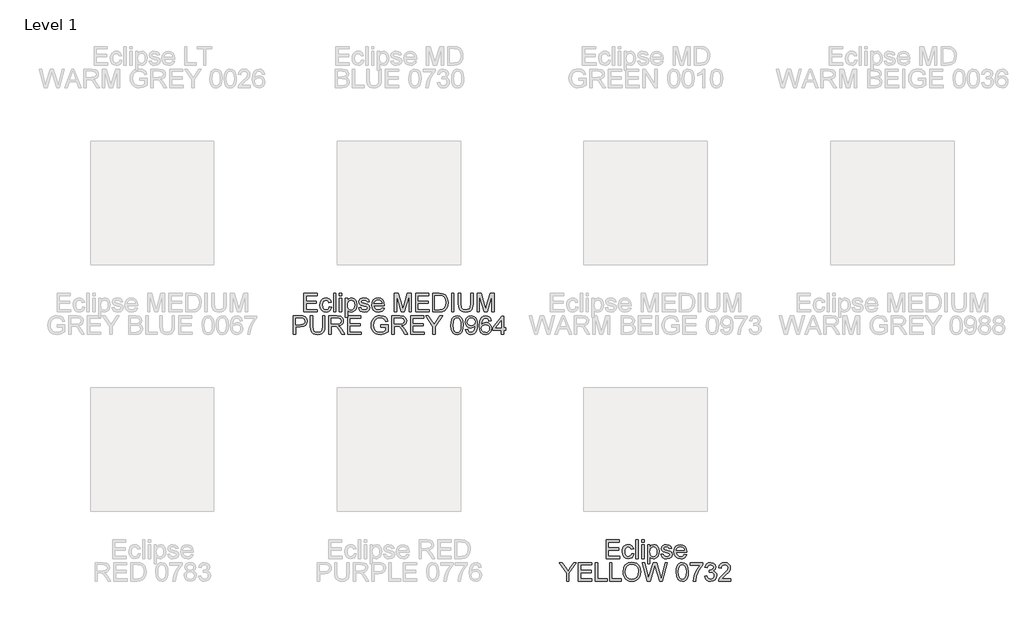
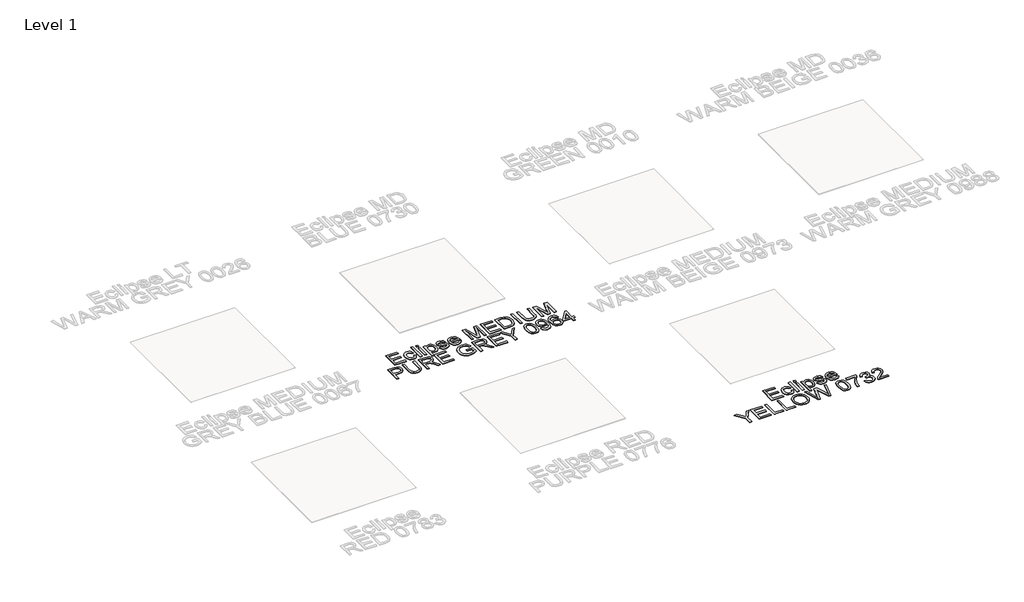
# One storey, part 4 of 13: 2 proxies.
"""IFC4 building model written with IfcOpenShell, lengths in millimetres."""

from ifc_helpers import new_model, si_unit, origin, origin_with_axes, place, context, project, spatial, polyline, outline, extrude, element, save

model = new_model("IFC4")

# Units and contexts
model_context = context("Model", 3, world=origin())
ifc_project = project(units=[si_unit("LENGTHUNIT", "METRE", prefix="MILLI")], contexts=[model_context])

# Site, building, storey
site = spatial("IfcSite", under=ifc_project)
building = spatial("IfcBuilding", under=site)
storey = spatial("IfcBuildingStorey", under=building, Name="Level 1", Elevation=0.0)

# Proxies
placement = place(None, origin())
element("IfcBuildingElementProxy", 1, Name="150mm Arial", ObjectType="150mm Arial", at=placement, inside=storey, context=model_context, shape_type="SweptSolid", body=[
    extrude(outline(polyline([(-706.1987276, -5362.9455422), (-706.1987276, -5212.261077), (-597.8942682, -5212.261077), (-597.8942682, -5231.0966352), (-687.3631694, -5231.0966352), (-687.3631694, -5275.8310858), (-602.6031577, -5275.8310858), (-602.6031577, -5294.6666439), (-687.3631694, -5294.6666439), (-687.3631694, -5344.1099841), (-595.5398234, -5344.1099841), (-595.5398234, -5362.9455422), (-706.1987276, -5362.9455422)])), origin_with_axes(), (0.0, 0.0, 1.0), 5.0),
    extrude(outline(polyline([(-499.0075879, -5322.9199812), (-480.1720297, -5325.2744259), (-485.4235452, -5342.0268523), (-495.2919798, -5354.6865914), (-508.8484313, -5362.6466381), (-525.1639978, -5365.299987), (-545.1997709, -5361.5981744), (-560.8669454, -5350.4927367), (-570.9791017, -5332.4711175), (-574.3498205, -5308.0207603), (-572.9104822, -5291.2591369), (-568.5924673, -5276.7323967), (-561.3267979, -5265.0015595), (-551.0444961, -5256.6276456), (-538.7434419, -5251.6060564), (-525.4215152, -5249.9321933), (-509.5060203, -5252.2314558), (-496.7819018, -5259.1292432), (-487.6538298, -5270.2576735), (-482.5264745, -5285.2488648), (-501.3620327, -5287.6033096), (-510.0992301, -5273.4950351), (-525.2743624, -5268.7677515), (-537.4466579, -5271.0946051), (-547.1081588, -5278.0751659), (-553.4127365, -5290.0865131), (-555.5142624, -5307.5057256), (-553.4587217, -5325.1594628), (-547.2920998, -5337.2121967), (-537.8053428, -5344.1513708), (-525.7893972, -5346.4644288), (-516.0359258, -5345.020492), (-508.0390909, -5340.6886815), (-502.2219568, -5333.3586328), (-499.0075879, -5322.9199812)])), origin_with_axes(), (0.0, 0.0, 1.0), 5.0),
    extrude(outline(polyline([(-463.6909164, -5362.9455422), (-463.6909164, -5212.261077), (-444.8553582, -5212.261077), (-444.8553582, -5362.9455422), (-463.6909164, -5362.9455422)])), origin_with_axes(), (0.0, 0.0, 1.0), 5.0),
    extrude(outline(polyline([(-416.602021, -5231.0966352), (-416.602021, -5212.261077), (-397.7664628, -5212.261077), (-397.7664628, -5231.0966352), (-416.602021, -5231.0966352)])), origin_with_axes(), (0.0, 0.0, 1.0), 5.0),
    extrude(outline(polyline([(-416.602021, -5362.9455422), (-416.602021, -5252.2866381), (-397.7664628, -5252.2866381), (-397.7664628, -5362.9455422), (-416.602021, -5362.9455422)])), origin_with_axes(), (0.0, 0.0, 1.0), 5.0),
    extrude(outline(polyline([(-369.5131256, -5405.3255481), (-369.5131256, -5252.2866381), (-350.6775674, -5252.2866381), (-350.6775674, -5270.7543142), (-337.6545448, -5255.1377235), (-320.0697854, -5249.9321933), (-307.3318714, -5251.7532092), (-296.194244, -5257.2162568), (-287.1259528, -5265.9902424), (-280.5960474, -5277.7440721), (-275.3353348, -5306.7699616), (-276.8206584, -5322.8785944), (-281.2766291, -5337.2857731), (-288.5606926, -5349.260332), (-298.5302946, -5358.0711058), (-310.1415701, -5363.4927667), (-322.3506538, -5365.299987), (-338.7397967, -5360.4623388), (-350.6775674, -5348.2302624), (-350.6775674, -5405.3255481), (-369.5131256, -5405.3255481)]), holes=[polyline([(-350.6775674, -5308.4990069), (-348.6404209, -5325.3847905), (-342.5289813, -5337.1938026), (-333.5112738, -5344.1467723), (-322.755324, -5346.4644288), (-311.8246302, -5344.0639988), (-302.5769966, -5336.8627088), (-296.2724189, -5324.6214354), (-294.170893, -5307.1010554), (-296.2218351, -5290.3072423), (-302.3746615, -5278.3326833), (-311.3785733, -5271.1589844), (-321.9827718, -5268.7677515), (-332.6283571, -5271.3107358), (-341.9771583, -5278.9396886), (-348.5024652, -5291.4154868), (-350.6775674, -5308.4990069)])]), origin_with_axes(), (0.0, 0.0, 1.0), 5.0),
    extrude(outline(polyline([(-261.2086662, -5329.9833155), (-242.3731081, -5327.6288707), (-239.402461, -5335.6854864), (-233.6543048, -5341.6083865), (-213.6783124, -5346.4644288), (-194.4748723, -5342.0130567), (-188.2208784, -5331.565208), (-189.7935739, -5326.764348), (-194.5116605, -5323.1039222), (-213.8990416, -5317.732845), (-242.2627435, -5308.517401), (-254.6419726, -5297.7568527), (-258.8542215, -5282.5633263), (-255.4697071, -5268.5286282), (-246.235869, -5257.804868), (-234.2613101, -5252.2314558), (-218.0561082, -5249.9321933), (-195.1370599, -5253.6294074), (-180.5689329, -5263.6357976), (-174.0942098, -5280.5399753), (-192.9297679, -5282.8944201), (-200.0114963, -5272.5017537), (-216.5845802, -5268.7677515), (-234.610798, -5272.3362068), (-240.0186633, -5280.6503399), (-237.7745831, -5286.1317816), (-230.748037, -5290.2888482), (-214.524441, -5294.2987619), (-186.8781091, -5303.164718), (-174.0390275, -5313.2078965), (-169.3853202, -5329.5786453), (-174.8483679, -5347.604863), (-190.6121113, -5360.683068), (-213.9358298, -5365.299987), (-232.9277378, -5363.0743009), (-246.787692, -5356.3972427), (-256.0399242, -5345.3423888), (-261.2086662, -5329.9833155)])), origin_with_axes(), (0.0, 0.0, 1.0), 5.0),
    extrude(outline(polyline([(-70.7193691, -5329.9833155), (-52.251693, -5332.3377602), (-58.9057585, -5346.2528967), (-69.5237526, -5356.6547601), (-83.8665519, -5363.1386803), (-101.6950331, -5365.299987), (-123.795544, -5361.5705833), (-140.8008892, -5350.3823721), (-151.644211, -5332.4619204), (-155.2586516, -5308.5357951), (-151.6074228, -5283.804928), (-140.6537364, -5265.3096607), (-123.8783174, -5253.7765602), (-102.7618909, -5249.9321933), (-82.3030534, -5253.7673631), (-65.9552973, -5265.2728725), (-55.2361356, -5283.7313516), (-51.6630818, -5308.4254305), (-51.7734464, -5313.5022021), (-136.4230935, -5313.5022021), (-133.1627393, -5327.6012795), (-125.5889687, -5337.9663548), (-114.6582749, -5344.3399103), (-101.3271511, -5346.4644288), (-82.859475, -5342.5280915), (-70.7193691, -5329.9833155)]), holes=[polyline([(-136.4230935, -5294.6666439), (-70.4986399, -5294.6666439), (-73.0462227, -5284.715436), (-78.0402208, -5277.5969193), (-89.0214984, -5270.9750434), (-102.8354673, -5268.7677515), (-115.5319947, -5270.5289865), (-126.0304271, -5275.8126917), (-133.3282862, -5284.0486498), (-136.4230935, -5294.6666439)])]), origin_with_axes(), (0.0, 0.0, 1.0), 5.0),
    extrude(outline(polyline([(28.3880404, -5362.9455422), (28.3880404, -5212.261077), (60.7984442, -5212.261077), (91.6269554, -5318.468609), (97.8441611, -5340.6518933), (104.5764016, -5316.629199), (134.889878, -5212.261077), (167.3002818, -5212.261077), (167.3002818, -5362.9455422), (148.4647236, -5362.9455422), (148.4647236, -5231.0966352), (110.6096663, -5362.9455422), (85.0786558, -5362.9455422), (47.2235985, -5231.0966352), (47.2235985, -5362.9455422), (28.3880404, -5362.9455422)])), origin_with_axes(), (0.0, 0.0, 1.0), 5.0),
    extrude(outline(polyline([(200.2625085, -5362.9455422), (200.2625085, -5212.261077), (308.5669679, -5212.261077), (308.5669679, -5231.0966352), (219.0980667, -5231.0966352), (219.0980667, -5275.8310858), (303.8580784, -5275.8310858), (303.8580784, -5294.6666439), (219.0980667, -5294.6666439), (219.0980667, -5344.1099841), (310.9214127, -5344.1099841), (310.9214127, -5362.9455422), (200.2625085, -5362.9455422)])), origin_with_axes(), (0.0, 0.0, 1.0), 5.0),
    extrude(outline(polyline([(339.1747499, -5362.9455422), (339.1747499, -5212.261077), (391.1564758, -5212.261077), (418.0486497, -5214.4315808), (440.1951458, -5225.2105232), (450.6154033, -5236.6884415), (458.0374225, -5250.9622629), (462.4795976, -5267.756076), (463.9603227, -5286.7939692), (459.9504089, -5317.1994161), (449.6497131, -5339.1435771), (435.8909264, -5352.8103933), (417.8831028, -5360.3703683), (393.6580734, -5362.9455422), (339.1747499, -5362.9455422)]), holes=[polyline([(358.0103081, -5344.1099841), (391.3404168, -5344.1099841), (415.5838403, -5341.3876573), (429.5633561, -5333.6989236), (441.0228803, -5314.9921242), (445.1247645, -5286.4996636), (443.1152091, -5265.9718483), (437.0865429, -5250.8151101), (428.1792001, -5240.4040496), (417.5336149, -5234.1132675), (390.825382, -5231.0966352), (358.0103081, -5231.0966352), (358.0103081, -5344.1099841)])]), origin_with_axes(), (0.0, 0.0, 1.0), 5.0),
    extrude(outline(polyline([(492.2136599, -5362.9455422), (492.2136599, -5212.261077), (511.0492181, -5212.261077), (511.0492181, -5362.9455422), (492.2136599, -5362.9455422)])), origin_with_axes(), (0.0, 0.0, 1.0), 5.0),
    extrude(outline(polyline([(647.6070147, -5212.261077), (666.4425728, -5212.261077), (666.4425728, -5299.1915925), (665.1641829, -5319.5492624), (661.3290131, -5335.2256339), (654.1645112, -5347.3197545), (642.8981251, -5356.9306716), (627.5022636, -5363.2076582), (607.9493356, -5365.299987), (588.8240704, -5363.4789711), (573.5339749, -5358.0159235), (562.0744508, -5349.0993836), (554.4408994, -5336.9178911), (550.1504756, -5320.579332), (548.7203344, -5299.1915925), (548.7203344, -5212.261077), (567.5558925, -5212.261077), (567.5558925, -5298.5294049), (571.2715007, -5327.2425946), (576.320681, -5335.4049764), (584.0370059, -5341.4612337), (606.183502, -5346.4644288), (625.3409569, -5343.9904224), (638.078871, -5336.5684032), (645.2249787, -5322.1106408), (647.6070147, -5298.5294049), (647.6070147, -5212.261077)])), origin_with_axes(), (0.0, 0.0, 1.0), 5.0),
    extrude(outline(polyline([(699.4047996, -5362.9455422), (699.4047996, -5212.261077), (731.8152034, -5212.261077), (762.6437146, -5318.468609), (768.8609203, -5340.6518933), (775.5931608, -5316.629199), (805.9066372, -5212.261077), (838.317041, -5212.261077), (838.317041, -5362.9455422), (819.4814828, -5362.9455422), (819.4814828, -5231.0966352), (781.6264255, -5362.9455422), (756.095415, -5362.9455422), (718.2403577, -5231.0966352), (718.2403577, -5362.9455422), (699.4047996, -5362.9455422)])), origin_with_axes(), (0.0, 0.0, 1.0), 5.0),
    extrude(outline(polyline([(-790.9587393, -5545.907769), (-790.9587393, -5395.2233038), (-735.1142524, -5395.2233038), (-712.5998743, -5396.6580436), (-694.297745, -5403.7029838), (-682.4335507, -5418.2711108), (-677.9453904, -5438.8173202), (-680.9758183, -5456.5768235), (-690.0671021, -5471.3748768), (-707.0678488, -5481.3628729), (-733.8266654, -5484.692205), (-772.1231811, -5484.692205), (-772.1231811, -5545.907769), (-790.9587393, -5545.907769)]), holes=[polyline([(-772.1231811, -5465.8566468), (-732.7230194, -5465.8566468), (-716.0211769, -5464.1276015), (-704.984717, -5458.9404653), (-698.8318906, -5450.6171352), (-696.7809485, -5439.4795078), (-701.6185967, -5423.8813112), (-714.3289197, -5415.3464489), (-733.1644778, -5414.0588619), (-772.1231811, -5414.0588619), (-772.1231811, -5465.8566468)])]), origin_with_axes(), (0.0, 0.0, 1.0), 5.0),
    extrude(outline(polyline([(-553.1598176, -5395.2233038), (-534.3242594, -5395.2233038), (-534.3242594, -5482.1538192), (-535.6026494, -5502.5114891), (-539.4378192, -5518.1878607), (-546.602321, -5530.2819813), (-557.8687071, -5539.8928984), (-573.2645686, -5546.1698849), (-592.8174967, -5548.2622138), (-611.9427619, -5546.4411979), (-627.2328573, -5540.9781503), (-638.6923815, -5532.0616104), (-646.3259329, -5519.8801178), (-650.6163566, -5503.5415587), (-652.0464979, -5482.1538192), (-652.0464979, -5395.2233038), (-633.2109397, -5395.2233038), (-633.2109397, -5481.4916316), (-629.4953316, -5510.2048214), (-624.4461512, -5518.3672031), (-616.7298264, -5524.4234605), (-594.5833302, -5529.4266556), (-575.4258754, -5526.9526492), (-562.6879613, -5519.5306299), (-555.5418535, -5505.0728675), (-553.1598176, -5481.4916316), (-553.1598176, -5395.2233038)])), origin_with_axes(), (0.0, 0.0, 1.0), 5.0),
    extrude(outline(polyline([(-501.3620327, -5545.907769), (-501.3620327, -5395.2233038), (-436.4308605, -5395.2233038), (-406.282931, -5399.2883998), (-397.0031077, -5404.9169943), (-389.8018176, -5413.6725858), (-385.1803001, -5424.5297032), (-383.6397942, -5436.4628754), (-386.1919756, -5451.3069139), (-393.8485196, -5463.6125667), (-406.8393525, -5472.6348726), (-425.3944007, -5477.6288707), (-414.6890346, -5485.6854864), (-399.4219318, -5505.0728675), (-374.2955915, -5545.907769), (-396.1845703, -5545.907769), (-415.7926806, -5514.6745876), (-429.9561374, -5493.9996195), (-439.9073454, -5484.2323525), (-448.865272, -5480.6455031), (-459.7913672, -5479.9833155), (-482.5264745, -5479.9833155), (-482.5264745, -5545.907769), (-501.3620327, -5545.907769)]), holes=[polyline([(-482.5264745, -5461.1477573), (-440.3671979, -5461.1477573), (-418.8644953, -5458.4806128), (-406.650813, -5449.9457506), (-402.4753524, -5437.1618512), (-404.4665137, -5427.9739984), (-410.4399976, -5420.5703732), (-420.7177008, -5415.6867398), (-435.6215201, -5414.0588619), (-482.5264745, -5414.0588619), (-482.5264745, -5461.1477573)])]), origin_with_axes(), (0.0, 0.0, 1.0), 5.0),
    extrude(outline(polyline([(-350.6775674, -5545.907769), (-350.6775674, -5395.2233038), (-242.3731081, -5395.2233038), (-242.3731081, -5414.0588619), (-331.8420093, -5414.0588619), (-331.8420093, -5458.7933125), (-247.0819976, -5458.7933125), (-247.0819976, -5477.6288707), (-331.8420093, -5477.6288707), (-331.8420093, -5527.0722108), (-240.0186633, -5527.0722108), (-240.0186633, -5545.907769), (-350.6775674, -5545.907769)])), origin_with_axes(), (0.0, 0.0, 1.0), 5.0),
    extrude(outline(polyline([(-82.2708638, -5487.0466498), (-82.2708638, -5468.2110916), (-21.0552998, -5468.2110916), (-21.0552998, -5524.5338251), (-51.2768057, -5542.3025254), (-83.227357, -5548.2622138), (-104.3575791, -5545.8939734), (-123.4552531, -5538.7892524), (-139.3201642, -5527.196371), (-150.7520972, -5511.3636497), (-157.6636802, -5492.3717416), (-159.9675411, -5471.3013004), (-157.6728772, -5450.0791078), (-150.7888854, -5430.3376402), (-139.6006742, -5413.7783519), (-124.3933522, -5402.1026971), (-105.8704938, -5395.1773185), (-84.7356731, -5392.868859), (-55.2683253, -5398.221542), (-43.5190941, -5404.6226887), (-34.6117513, -5413.1207628), (-23.2258035, -5438.044768), (-40.5898337, -5442.9375985), (-49.1798783, -5425.5183861), (-63.8583699, -5415.4752076), (-85.0299787, -5411.7044172), (-109.1446435, -5415.7695132), (-125.5521805, -5426.4380911), (-135.2458711, -5440.9510358), (-141.131983, -5470.5287482), (-139.3615509, -5488.5411704), (-134.0502546, -5503.3622163), (-125.3590425, -5514.8861198), (-113.4488629, -5523.0071148), (-99.5107338, -5527.8217704), (-84.7356731, -5529.4266556), (-58.9655394, -5524.5890074), (-39.8908579, -5514.2699174), (-39.8908579, -5487.0466498), (-82.2708638, -5487.0466498)])), origin_with_axes(), (0.0, 0.0, 1.0), 5.0),
    extrude(outline(polyline([(9.5524822, -5545.907769), (9.5524822, -5395.2233038), (74.4836544, -5395.2233038), (104.6315839, -5399.2883998), (113.9114072, -5404.9169943), (121.1126973, -5413.6725858), (125.7342148, -5424.5297032), (127.2747207, -5436.4628754), (124.7225393, -5451.3069139), (117.0659953, -5463.6125667), (104.0751624, -5472.6348726), (85.5201142, -5477.6288707), (96.2254803, -5485.6854864), (111.4925831, -5505.0728675), (136.6189234, -5545.907769), (114.7299447, -5545.907769), (95.1218343, -5514.6745876), (80.9583775, -5493.9996195), (71.0071695, -5484.2323525), (62.0492429, -5480.6455031), (51.1231477, -5479.9833155), (28.3880404, -5479.9833155), (28.3880404, -5545.907769), (9.5524822, -5545.907769)]), holes=[polyline([(28.3880404, -5461.1477573), (70.547317, -5461.1477573), (92.0500196, -5458.4806128), (104.2637019, -5449.9457506), (108.4391625, -5437.1618512), (106.4480012, -5427.9739984), (100.4745173, -5420.5703732), (90.1968141, -5415.6867398), (75.2929948, -5414.0588619), (28.3880404, -5414.0588619), (28.3880404, -5461.1477573)])]), origin_with_axes(), (0.0, 0.0, 1.0), 5.0),
    extrude(outline(polyline([(160.2369475, -5545.907769), (160.2369475, -5395.2233038), (268.5414068, -5395.2233038), (268.5414068, -5414.0588619), (179.0725056, -5414.0588619), (179.0725056, -5458.7933125), (263.8325173, -5458.7933125), (263.8325173, -5477.6288707), (179.0725056, -5477.6288707), (179.0725056, -5527.0722108), (270.8958516, -5527.0722108), (270.8958516, -5545.907769), (160.2369475, -5545.907769)])), origin_with_axes(), (0.0, 0.0, 1.0), 5.0),
    extrude(outline(polyline([(341.5291947, -5545.907769), (341.5291947, -5482.0802428), (282.6680754, -5395.2233038), (304.888148, -5395.2233038), (336.3052703, -5441.6132234), (352.3817135, -5465.2680357), (368.4949449, -5439.9209662), (397.0057996, -5395.2233038), (419.2258721, -5395.2233038), (360.3647528, -5482.0802428), (360.3647528, -5545.907769), (341.5291947, -5545.907769)])), origin_with_axes(), (0.0, 0.0, 1.0), 5.0),
    extrude(outline(polyline([(487.5047704, -5471.779547), (488.8889264, -5447.6602837), (493.0413944, -5428.4246538), (499.9207877, -5413.7783519), (509.4857196, -5403.4270723), (521.8051679, -5397.2742459), (536.9481105, -5395.2233038), (558.9474538, -5400.0793461), (574.1409802, -5414.077256), (582.9701481, -5436.3709049), (586.3914507, -5471.779547), (585.0210902, -5495.7608545), (580.9100089, -5514.9504991), (574.0720024, -5529.6105966), (564.5208661, -5540.003263), (552.1738266, -5546.1974761), (536.9481105, -5548.2622138), (517.3767884, -5544.6753643), (502.5143558, -5533.914816), (491.2571667, -5508.4297907), (487.5047704, -5471.779547)]), holes=[polyline([(506.3403285, -5471.7427588), (508.5476205, -5501.371055), (515.1694964, -5518.5189545), (525.0287339, -5526.6997303), (536.9481105, -5529.4266556), (548.8674872, -5526.6905333), (558.7267246, -5518.4821663), (565.3486005, -5501.3250697), (567.5558925, -5471.7427588), (565.4221769, -5442.7812487), (559.0210302, -5425.499992), (549.1801869, -5416.9191444), (536.7273813, -5414.0588619), (524.9367634, -5416.5788536), (515.463802, -5424.1388286), (508.6211969, -5442.4961402), (506.3403285, -5471.7427588)])]), origin_with_axes(), (0.0, 0.0, 1.0), 5.0),
    extrude(outline(polyline([(605.2270088, -5508.2366527), (624.062567, -5505.8822079), (627.2815344, -5516.5737784), (632.5238529, -5523.8532434), (639.6607636, -5528.0333026), (648.5635079, -5529.4266556), (663.8122166, -5525.8398062), (674.1497006, -5516.2564802), (680.311724, -5499.8857314), (683.0340508, -5478.0335409), (682.9236862, -5474.3547209), (667.8589185, -5488.6285423), (647.2023445, -5494.1099841), (630.0268538, -5490.7622579), (615.7300398, -5480.7190795), (606.086933, -5465.2036563), (602.8725641, -5445.4391961), (606.2432828, -5425.0217454), (616.3554392, -5409.0188786), (631.5443671, -5398.6721975), (650.1454004, -5395.2233038), (664.1938941, -5397.1914724), (676.982392, -5403.0959785), (687.678561, -5412.6425162), (695.4500681, -5425.5367802), (700.1819503, -5443.3606628), (701.7592444, -5467.6960568), (700.1865488, -5493.4983803), (695.4684622, -5513.4421829), (687.6463713, -5528.4287757), (676.7616628, -5539.3594695), (663.2833862, -5546.0365277), (647.6805911, -5548.2622138), (631.5765567, -5545.636456), (618.728278, -5537.7591828), (609.7427603, -5525.1270348), (605.2270088, -5508.2366527)]), holes=[polyline([(682.9236862, -5444.9977377), (680.8911382, -5432.2322325), (674.7934941, -5422.4097832), (665.3297298, -5416.1465922), (653.198821, -5414.0588619), (640.6172568, -5416.3075406), (630.5372901, -5423.0535767), (623.9154142, -5433.3772652), (621.7081222, -5446.3589011), (623.7958525, -5457.9977677), (630.0590435, -5467.2362043), (639.8906898, -5473.2648705), (652.6837862, -5475.2744259), (664.718126, -5473.2648705), (674.407218, -5467.2362043), (680.7945692, -5457.6574769), (682.9236862, -5444.9977377)])]), origin_with_axes(), (0.0, 0.0, 1.0), 5.0),
    extrude(outline(polyline([(814.7725933, -5435.2488648), (795.9370351, -5437.6033096), (788.8001244, -5421.8947484), (780.2560651, -5416.0178336), (769.9277781, -5414.0588619), (752.9316299, -5418.6205987), (740.0741542, -5435.7455055), (736.1700065, -5449.7756051), (734.7214711, -5469.3147376), (751.3313432, -5454.2867581), (771.9143408, -5449.3755335), (789.3151592, -5452.7324567), (803.9200744, -5462.8032263), (813.8252971, -5478.1898907), (817.127038, -5497.4944984), (815.5727366, -5510.9819721), (810.9098323, -5523.4853614), (803.5246013, -5534.0895599), (793.8033195, -5541.8794612), (782.1874456, -5546.6665256), (769.1184377, -5548.2622138), (747.7490923, -5544.0315708), (730.7299515, -5531.339642), (719.5969226, -5508.9356285), (715.885913, -5475.5687315), (720.0061913, -5438.0539651), (732.3670264, -5412.4033929), (749.2436129, -5399.5183261), (771.1050004, -5395.2233038), (787.6320991, -5397.8812512), (800.8666539, -5405.8550934), (810.1372801, -5418.5194311), (814.7725933, -5435.2488648)]), holes=[polyline([(734.7214711, -5497.2001928), (739.0808728, -5513.5157593), (750.6691556, -5525.3615596), (767.6469097, -5529.4266556), (780.0767226, -5527.3205312), (789.8485881, -5521.0021579), (796.1807569, -5511.0693441), (798.2914799, -5498.1198978), (796.2083481, -5485.6900849), (789.9589527, -5476.212525), (780.0215403, -5470.21145), (766.8743575, -5468.2110916), (754.4629387, -5470.21145), (744.0840679, -5476.212525), (737.0621203, -5485.4601587), (734.7214711, -5497.2001928)])]), origin_with_axes(), (0.0, 0.0, 1.0), 5.0),
    extrude(outline(polyline([(894.8237154, -5545.907769), (894.8237154, -5510.5910975), (826.5448171, -5510.5910975), (826.5448171, -5491.7555393), (899.532605, -5397.5777485), (913.6592736, -5397.5777485), (913.6592736, -5491.7555393), (932.4948317, -5491.7555393), (932.4948317, -5510.5910975), (913.6592736, -5510.5910975), (913.6592736, -5545.907769), (894.8237154, -5545.907769)]), holes=[polyline([(894.8237154, -5491.7555393), (894.8237154, -5433.5566077), (849.7213828, -5491.7555393), (894.8237154, -5491.7555393)])]), origin_with_axes(), (0.0, 0.0, 1.0), 5.0),
])
element("IfcBuildingElementProxy", 2, Name="150mm Arial", ObjectType="150mm Arial", at=placement, inside=storey, context=model_context, shape_type="SweptSolid", body=[
    extrude(outline(polyline([(1744.6774457, -7362.9455422), (1744.6774457, -7212.261077), (1852.9819051, -7212.261077), (1852.9819051, -7231.0966352), (1763.5130039, -7231.0966352), (1763.5130039, -7275.8310858), (1848.2730155, -7275.8310858), (1848.2730155, -7294.6666439), (1763.5130039, -7294.6666439), (1763.5130039, -7344.1099841), (1855.3363499, -7344.1099841), (1855.3363499, -7362.9455422), (1744.6774457, -7362.9455422)])), origin_with_axes(), (0.0, 0.0, 1.0), 5.0),
    extrude(outline(polyline([(1951.8685854, -7322.9199812), (1970.7041435, -7325.2744259), (1965.4526281, -7342.0268523), (1955.5841935, -7354.6865914), (1942.027742, -7362.6466381), (1925.7121755, -7365.299987), (1905.6764024, -7361.5981744), (1890.0092279, -7350.4927367), (1879.8970716, -7332.4711175), (1876.5263528, -7308.0207603), (1877.9656911, -7291.2591369), (1882.283706, -7276.7323967), (1889.5493754, -7265.0015595), (1899.8316772, -7256.6276456), (1912.1327314, -7251.6060564), (1925.4546581, -7249.9321933), (1941.3701529, -7252.2314558), (1954.0942715, -7259.1292432), (1963.2223435, -7270.2576735), (1968.3496988, -7285.2488648), (1949.5141406, -7287.6033096), (1940.7769432, -7273.4950351), (1925.6018109, -7268.7677515), (1913.4295154, -7271.0946051), (1903.7680145, -7278.0751659), (1897.4634368, -7290.0865131), (1895.3619109, -7307.5057256), (1897.4174516, -7325.1594628), (1903.5840735, -7337.2121967), (1913.0708305, -7344.1513708), (1925.0867761, -7346.4644288), (1934.8402475, -7345.020492), (1942.8370824, -7340.6886815), (1948.6542165, -7333.3586328), (1951.8685854, -7322.9199812)])), origin_with_axes(), (0.0, 0.0, 1.0), 5.0),
    extrude(outline(polyline([(1987.1852569, -7362.9455422), (1987.1852569, -7212.261077), (2006.0208151, -7212.261077), (2006.0208151, -7362.9455422), (1987.1852569, -7362.9455422)])), origin_with_axes(), (0.0, 0.0, 1.0), 5.0),
    extrude(outline(polyline([(2034.2741523, -7231.0966352), (2034.2741523, -7212.261077), (2053.1097105, -7212.261077), (2053.1097105, -7231.0966352), (2034.2741523, -7231.0966352)])), origin_with_axes(), (0.0, 0.0, 1.0), 5.0),
    extrude(outline(polyline([(2034.2741523, -7362.9455422), (2034.2741523, -7252.2866381), (2053.1097105, -7252.2866381), (2053.1097105, -7362.9455422), (2034.2741523, -7362.9455422)])), origin_with_axes(), (0.0, 0.0, 1.0), 5.0),
    extrude(outline(polyline([(2081.3630477, -7405.3255481), (2081.3630477, -7252.2866381), (2100.1986058, -7252.2866381), (2100.1986058, -7270.7543142), (2113.2216285, -7255.1377235), (2130.8063878, -7249.9321933), (2143.5443019, -7251.7532092), (2154.6819293, -7257.2162568), (2163.7502205, -7265.9902424), (2170.2801259, -7277.7440721), (2175.5408385, -7306.7699616), (2174.0555149, -7322.8785944), (2169.5995442, -7337.2857731), (2162.3154807, -7349.260332), (2152.3458787, -7358.0711058), (2140.7346032, -7363.4927667), (2128.5255195, -7365.299987), (2112.1363766, -7360.4623388), (2100.1986058, -7348.2302624), (2100.1986058, -7405.3255481), (2081.3630477, -7405.3255481)]), holes=[polyline([(2100.1986058, -7308.4990069), (2102.2357524, -7325.3847905), (2108.347192, -7337.1938026), (2117.3648994, -7344.1467723), (2128.1208493, -7346.4644288), (2139.0515431, -7344.0639988), (2148.2991767, -7336.8627088), (2154.6037544, -7324.6214354), (2156.7052803, -7307.1010554), (2154.6543382, -7290.3072423), (2148.5015118, -7278.3326833), (2139.4976, -7271.1589844), (2128.8934015, -7268.7677515), (2118.2478162, -7271.3107358), (2108.899015, -7278.9396886), (2102.3737081, -7291.4154868), (2100.1986058, -7308.4990069)])]), origin_with_axes(), (0.0, 0.0, 1.0), 5.0),
    extrude(outline(polyline([(2189.6675071, -7329.9833155), (2208.5030652, -7327.6288707), (2211.4737123, -7335.6854864), (2217.2218685, -7341.6083865), (2237.1978608, -7346.4644288), (2256.401301, -7342.0130567), (2262.6552949, -7331.565208), (2261.0825994, -7326.764348), (2256.3645128, -7323.1039222), (2236.9771316, -7317.732845), (2208.6134298, -7308.517401), (2196.2342007, -7297.7568527), (2192.0219518, -7282.5633263), (2195.4064662, -7268.5286282), (2204.6403043, -7257.804868), (2216.6148632, -7252.2314558), (2232.8200651, -7249.9321933), (2255.7391134, -7253.6294074), (2270.3072404, -7263.6357976), (2276.7819635, -7280.5399753), (2257.9464054, -7282.8944201), (2250.864677, -7272.5017537), (2234.2915931, -7268.7677515), (2216.2653753, -7272.3362068), (2210.85751, -7280.6503399), (2213.1015902, -7286.1317816), (2220.1281363, -7290.2888482), (2236.3517323, -7294.2987619), (2263.9980642, -7303.164718), (2276.8371458, -7313.2078965), (2281.4908531, -7329.5786453), (2276.0278054, -7347.604863), (2260.2640619, -7360.683068), (2236.9403434, -7365.299987), (2217.9484354, -7363.0743009), (2204.0884813, -7356.3972427), (2194.8362491, -7345.3423888), (2189.6675071, -7329.9833155)])), origin_with_axes(), (0.0, 0.0, 1.0), 5.0),
    extrude(outline(polyline([(2380.1568042, -7329.9833155), (2398.6244803, -7332.3377602), (2391.9704147, -7346.2528967), (2381.3524207, -7356.6547601), (2367.0096214, -7363.1386803), (2349.1811402, -7365.299987), (2327.0806293, -7361.5705833), (2310.0752841, -7350.3823721), (2299.2319623, -7332.4619204), (2295.6175217, -7308.5357951), (2299.2687505, -7283.804928), (2310.2224369, -7265.3096607), (2326.9978559, -7253.7765602), (2348.1142824, -7249.9321933), (2368.5731198, -7253.7673631), (2384.920876, -7265.2728725), (2395.6400376, -7283.7313516), (2399.2130915, -7308.4254305), (2399.1027269, -7313.5022021), (2314.4530798, -7313.5022021), (2317.713434, -7327.6012795), (2325.2872046, -7337.9663548), (2336.2178984, -7344.3399103), (2349.5490222, -7346.4644288), (2368.0166983, -7342.5280915), (2380.1568042, -7329.9833155)]), holes=[polyline([(2314.4530798, -7294.6666439), (2380.3775334, -7294.6666439), (2377.8299506, -7284.715436), (2372.8359525, -7277.5969193), (2361.8546749, -7270.9750434), (2348.040706, -7268.7677515), (2335.3441786, -7270.5289865), (2324.8457462, -7275.8126917), (2317.5478871, -7284.0486498), (2314.4530798, -7294.6666439)])]), origin_with_axes(), (0.0, 0.0, 1.0), 5.0),
    extrude(outline(polyline([(1425.6501795, -7545.907769), (1425.6501795, -7482.0802428), (1366.7890603, -7395.2233038), (1389.0091328, -7395.2233038), (1420.4262552, -7441.6132234), (1436.5026983, -7465.2680357), (1452.6159297, -7439.9209662), (1481.1267844, -7395.2233038), (1503.3468569, -7395.2233038), (1444.4857376, -7482.0802428), (1444.4857376, -7545.907769), (1425.6501795, -7545.907769)])), origin_with_axes(), (0.0, 0.0, 1.0), 5.0),
    extrude(outline(polyline([(1519.8279703, -7545.907769), (1519.8279703, -7395.2233038), (1628.1324296, -7395.2233038), (1628.1324296, -7414.0588619), (1538.6635284, -7414.0588619), (1538.6635284, -7458.7933125), (1623.4235401, -7458.7933125), (1623.4235401, -7477.6288707), (1538.6635284, -7477.6288707), (1538.6635284, -7527.0722108), (1630.4868744, -7527.0722108), (1630.4868744, -7545.907769), (1519.8279703, -7545.907769)])), origin_with_axes(), (0.0, 0.0, 1.0), 5.0),
    extrude(outline(polyline([(1658.7402116, -7545.907769), (1658.7402116, -7395.2233038), (1677.5757698, -7395.2233038), (1677.5757698, -7527.0722108), (1752.9180024, -7527.0722108), (1752.9180024, -7545.907769), (1658.7402116, -7545.907769)])), origin_with_axes(), (0.0, 0.0, 1.0), 5.0),
    extrude(outline(polyline([(1774.1080053, -7545.907769), (1774.1080053, -7395.2233038), (1792.9435635, -7395.2233038), (1792.9435635, -7527.0722108), (1868.2857961, -7527.0722108), (1868.2857961, -7545.907769), (1774.1080053, -7545.907769)])), origin_with_axes(), (0.0, 0.0, 1.0), 5.0),
    extrude(outline(polyline([(1882.4124647, -7472.5520992), (1887.4340539, -7439.2311874), (1893.7110405, -7425.6126558), (1902.4988216, -7414.0220737), (1925.5006434, -7398.1571627), (1954.3333948, -7392.868859), (1974.0978549, -7395.3520625), (1991.8205701, -7402.8016729), (2006.5358499, -7414.6934584), (2017.2780041, -7430.5031871), (2023.8446977, -7449.467504), (2026.0335956, -7470.8230538), (2023.7297346, -7492.4637121), (2016.8181516, -7511.6947434), (2005.6805242, -7527.5320633), (1990.69853, -7538.9915875), (1973.1275662, -7545.9445572), (1954.2230302, -7548.2622138), (1934.1550673, -7545.7008354), (1916.3311847, -7538.0167002), (1901.652693, -7525.9041855), (1891.0209034, -7510.0576686), (1884.5645744, -7491.8245172), (1882.4124647, -7472.5520992)]), holes=[polyline([(1901.2480228, -7472.7360402), (1905.0142148, -7496.308079), (1916.3127906, -7514.2699174), (1933.2951432, -7525.6374711), (1954.1126656, -7529.4266556), (1975.2336906, -7525.6006829), (1992.2436344, -7514.1227646), (2003.4594367, -7495.6091032), (2007.1980375, -7470.675901), (2005.5977508, -7454.0016496), (2000.7968907, -7439.5898724), (1992.9196175, -7427.803853), (1982.0900913, -7419.0068748), (1969.0256819, -7413.5300316), (1954.4437594, -7411.7044172), (1934.1826585, -7415.2222887), (1916.956584, -7425.7759035), (1905.1751631, -7444.5516808), (1901.2480228, -7472.7360402)])]), origin_with_axes(), (0.0, 0.0, 1.0), 5.0),
    extrude(outline(polyline([(2078.8982383, -7545.907769), (2037.8058195, -7395.2233038), (2057.2299888, -7395.2233038), (2081.0687421, -7494.2571369), (2088.426382, -7524.8281307), (2096.2990567, -7497.788804), (2126.1710747, -7395.2233038), (2154.1668945, -7395.2233038), (2175.8719322, -7469.572255), (2192.0219518, -7524.8281307), (2199.1588625, -7495.1400537), (2223.218345, -7395.2233038), (2242.6425144, -7395.2233038), (2201.5133073, -7545.907769), (2181.3901622, -7545.907769), (2145.2641503, -7429.6570585), (2140.2241669, -7413.4334625), (2134.5587842, -7432.9679965), (2101.6333456, -7545.907769), (2078.8982383, -7545.907769)])), origin_with_axes(), (0.0, 0.0, 1.0), 5.0),
    extrude(outline(polyline([(2313.2758574, -7471.779547), (2314.6600135, -7447.6602837), (2318.8124815, -7428.4246538), (2325.6918748, -7413.7783519), (2335.2568067, -7403.4270723), (2347.576255, -7397.2742459), (2362.7191976, -7395.2233038), (2384.7185409, -7400.0793461), (2399.9120673, -7414.077256), (2408.7412352, -7436.3709049), (2412.1625378, -7471.779547), (2410.7921773, -7495.7608545), (2406.681096, -7514.9504991), (2399.8430894, -7529.6105966), (2390.2919531, -7540.003263), (2377.9449137, -7546.1974761), (2362.7191976, -7548.2622138), (2343.1478755, -7544.6753643), (2328.2854429, -7533.914816), (2317.0282538, -7508.4297907), (2313.2758574, -7471.779547)]), holes=[polyline([(2332.1114156, -7471.7427588), (2334.3187076, -7501.371055), (2340.9405835, -7518.5189545), (2350.799821, -7526.6997303), (2362.7191976, -7529.4266556), (2374.6385742, -7526.6905333), (2384.4978117, -7518.4821663), (2391.1196876, -7501.3250697), (2393.3269796, -7471.7427588), (2391.193264, -7442.7812487), (2384.7921173, -7425.499992), (2374.9512739, -7416.9191444), (2362.4984684, -7414.0588619), (2350.7078505, -7416.5788536), (2341.2348891, -7424.1388286), (2334.392284, -7442.4961402), (2332.1114156, -7471.7427588)])]), origin_with_axes(), (0.0, 0.0, 1.0), 5.0),
    extrude(outline(polyline([(2428.6436511, -7416.4133067), (2428.6436511, -7397.5777485), (2527.5303314, -7397.5777485), (2527.5303314, -7412.8080631), (2499.4793293, -7453.3302649), (2487.169078, -7478.7922975), (2478.0134149, -7504.9625029), (2471.023657, -7545.907769), (2452.1880988, -7545.907769), (2459.6744974, -7503.4173986), (2468.3887022, -7478.9578444), (2480.2207069, -7455.3904041), (2508.6947733, -7416.4133067), (2428.6436511, -7416.4133067)])), origin_with_axes(), (0.0, 0.0, 1.0), 5.0),
    extrude(outline(polyline([(2544.0114448, -7505.8822079), (2562.847003, -7503.5277632), (2567.0638503, -7515.3643663), (2573.2396693, -7523.3566027), (2581.6779626, -7527.9091424), (2592.6822328, -7529.4266556), (2605.5948908, -7527.3389253), (2615.5644929, -7521.0757343), (2621.9380485, -7511.7315316), (2624.062567, -7500.4007662), (2621.9564426, -7489.6448164), (2615.6380693, -7480.9214145), (2606.0731374, -7475.1410687), (2594.2273372, -7473.2142868), (2581.0203735, -7475.2744259), (2583.1173009, -7456.4388678), (2586.1339333, -7456.659597), (2607.5078772, -7451.2517316), (2614.6263938, -7444.3907324), (2616.9992327, -7434.6234655), (2615.2793843, -7426.4886748), (2610.1198394, -7419.8897915), (2602.2471647, -7415.5165943), (2592.3879272, -7414.0588619), (2582.5102956, -7415.5303899), (2574.4352858, -7419.9449738), (2568.5399769, -7427.3026138), (2565.2014477, -7437.6033096), (2546.3658896, -7435.2488648), (2551.9117107, -7418.3354901), (2561.7801452, -7405.7079406), (2575.2814144, -7397.844463), (2591.7257396, -7395.2233038), (2614.4424528, -7400.3920458), (2630.334955, -7414.5187144), (2635.8347908, -7433.5198195), (2630.6108665, -7450.8838496), (2615.1598227, -7463.3550493), (2626.9504406, -7468.1191211), (2635.687638, -7476.2309191), (2641.0955033, -7487.2489849), (2642.8981251, -7500.73186), (2639.2928816, -7519.0891715), (2628.4771509, -7534.4298507), (2612.1523874, -7544.804123), (2592.0200452, -7548.2622138), (2573.8098864, -7545.3099608), (2558.984242, -7536.4532017), (2548.6743491, -7522.9059472), (2544.0114448, -7505.8822079)])), origin_with_axes(), (0.0, 0.0, 1.0), 5.0),
    extrude(outline(polyline([(2755.911474, -7527.0722108), (2755.911474, -7545.907769), (2657.0247937, -7545.907769), (2659.0481447, -7532.9215346), (2670.4892748, -7512.9271481), (2694.0705107, -7491.0933517), (2726.591279, -7459.7130175), (2732.6889231, -7448.8972869), (2734.7214711, -7438.3758618), (2732.8038862, -7428.9442872), (2727.0511315, -7421.1038021), (2718.2081681, -7415.820097), (2707.0199569, -7414.0588619), (2695.2707257, -7415.7787103), (2686.1426537, -7420.9382552), (2680.2519432, -7429.1328267), (2678.2147967, -7439.9577544), (2659.3792385, -7437.6033096), (2663.9455738, -7419.3839538), (2673.8186068, -7406.0758226), (2688.4833029, -7397.9364335), (2707.4246271, -7395.2233038), (2726.5039071, -7398.2399361), (2741.1410119, -7407.2898332), (2750.4530249, -7420.8094965), (2753.5570293, -7437.2354276), (2750.2093031, -7455.0960985), (2739.0808728, -7473.5637746), (2712.0967284, -7499.3706966), (2690.4284789, -7517.4888849), (2681.9304048, -7527.0722108), (2755.911474, -7527.0722108)])), origin_with_axes(), (0.0, 0.0, 1.0), 5.0),
])

save(model, "model.ifc")
